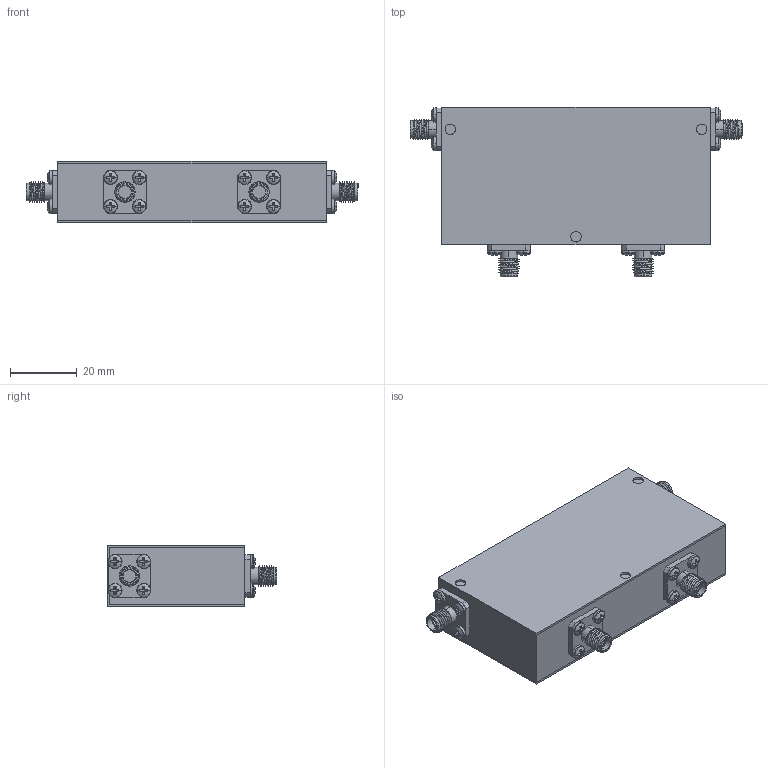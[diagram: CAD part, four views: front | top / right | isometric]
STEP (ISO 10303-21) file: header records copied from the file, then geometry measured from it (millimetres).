
FILE_DESCRIPTION (( 'STEP AP214' ), '1' );
FILE_NAME ('Package 12 Circ FFFF.step', '2021-12-01T20:57:07', ( '' ), ( '' ), 'SwSTEP 2.0', 'SolidWorks 2016', '' );
FILE_SCHEMA (( 'AUTOMOTIVE_DESIGN' ));
Length unit declared in the file: inch
Products named in the file (5): pan cross head_ai_CR-PHMS 0.086-56x0.125x0.125-N; Package 12; Package Size 12; Delta SMA-Female 0.500 flange Threaded; Package 12 Circ FFFF
Assembly tree (22 placements, depth 2):
  Package 12 Circ FFFF
    Package 12
    Delta SMA-Female 0.500 flange Threaded  x4
    pan cross head_ai_CR-PHMS 0.086-56x0.125x0.125-N  x16
    Package Size 12
Bounding box: 99.31 x 50.67 x 18.54 mm (x, y, z)
Volume: 62819.9 mm3; surface area: 30654.9 mm2
Topology: 22 solids, 22 shells, 552 faces, 1252 edges, 772 vertices
Faces by surface type: plane 304, cylinder 164, torus 40, sphere 32, bspline 12
Entity records: 3769 total; most frequent: CARTESIAN_POINT 1210, DIRECTION 537, ORIENTED_EDGE 434, EDGE_CURVE 217, AXIS2_PLACEMENT_3D 216, VERTEX_POINT 139, EDGE_LOOP 116, LINE 105
